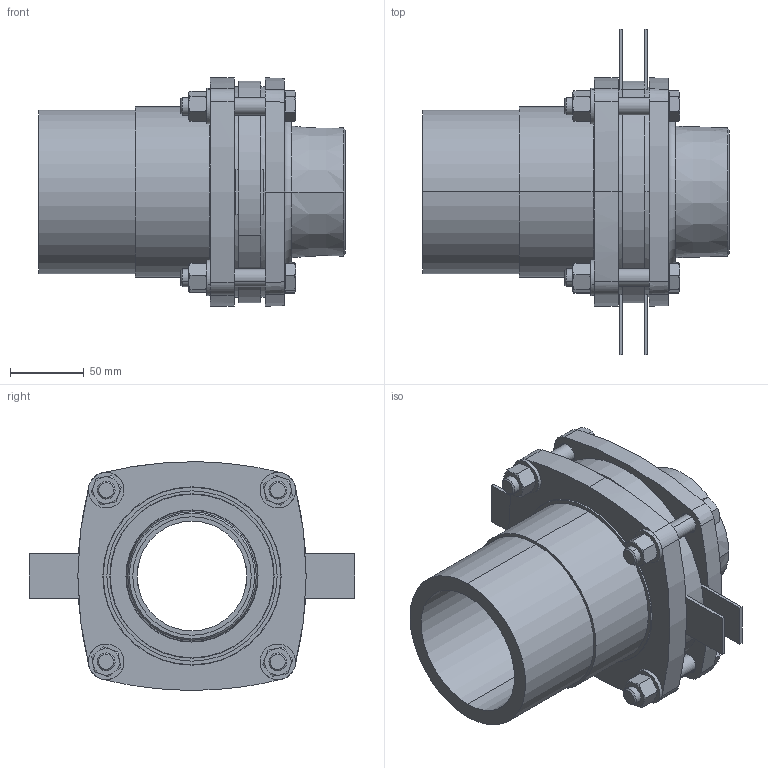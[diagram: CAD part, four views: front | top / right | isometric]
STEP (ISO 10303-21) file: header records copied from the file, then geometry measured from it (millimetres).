
FILE_DESCRIPTION (( 'STEP AP203' ), '1' );
FILE_NAME ('KP_C16-110-90M.step', '2011-08-08T11:59:58', ( '' ), ( '' ), 'SwSTEP 2.0', 'SolidWorks 2011', '' );
FILE_SCHEMA (( 'CONFIG_CONTROL_DESIGN' ));
Length unit declared in the file: millimetre
Products named in the file (1): KP_C16-110-90M
Bounding box: 207 x 220 x 154.31 mm (x, y, z)
Volume: 1295496.5 mm3; surface area: 287437.3 mm2
Topology: 1 solids, 1 shells, 407 faces, 901 edges, 536 vertices
Faces by surface type: plane 146, cone 138, cylinder 101, torus 22
Entity records: 11810 total; most frequent: CARTESIAN_POINT 2677, DIRECTION 2019, ORIENTED_EDGE 1802, EDGE_CURVE 901, AXIS2_PLACEMENT_3D 854, VERTEX_POINT 536, EDGE_LOOP 457, CIRCLE 446
